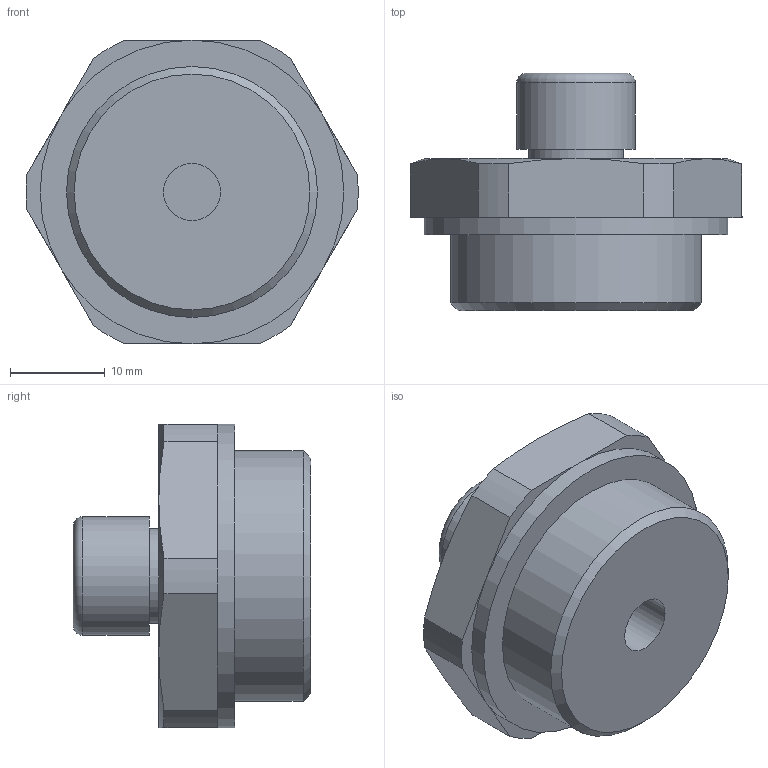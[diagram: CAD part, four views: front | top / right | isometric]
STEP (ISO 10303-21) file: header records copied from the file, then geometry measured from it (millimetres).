
FILE_DESCRIPTION( ( 'STEP AP203' ), '1' );
FILE_NAME( 'C:/Temp/Ganter_Step_05_03_2020/data/3_5/gn883/Breather valve GN 883-G3_4-160-B-MS.stp', '2020-03-12T13:42:51', ( 'License CC BY-ND 4.0' ), ( 'CADENAS' ), ' ', 'PARTsolutions', ' ' );
FILE_SCHEMA( ( 'CONFIG_CONTROL_DESIGN' ) );
Length unit declared in the file: millimetre
Products named in the file (1): _Breather valve GN 883-G3/4-160-B-MS
Bounding box: 34.98 x 25 x 32 mm (x, y, z)
Volume: 11926.9 mm3; surface area: 3855.8 mm2
Topology: 1 solids, 1 shells, 37 faces, 79 edges, 48 vertices
Faces by surface type: plane 18, cylinder 11, cone 7, torus 1
Full cylindrical faces by diameter (mm): 6 x1, 10 x1, 12.5 x1, 26.441 x1, 32 x1
Entity records: 1032 total; most frequent: CARTESIAN_POINT 216, DIRECTION 170, ORIENTED_EDGE 142, AXIS2_PLACEMENT_3D 73, EDGE_CURVE 71, EDGE_LOOP 48, VERTEX_POINT 47, FACE_OUTER_BOUND 43
